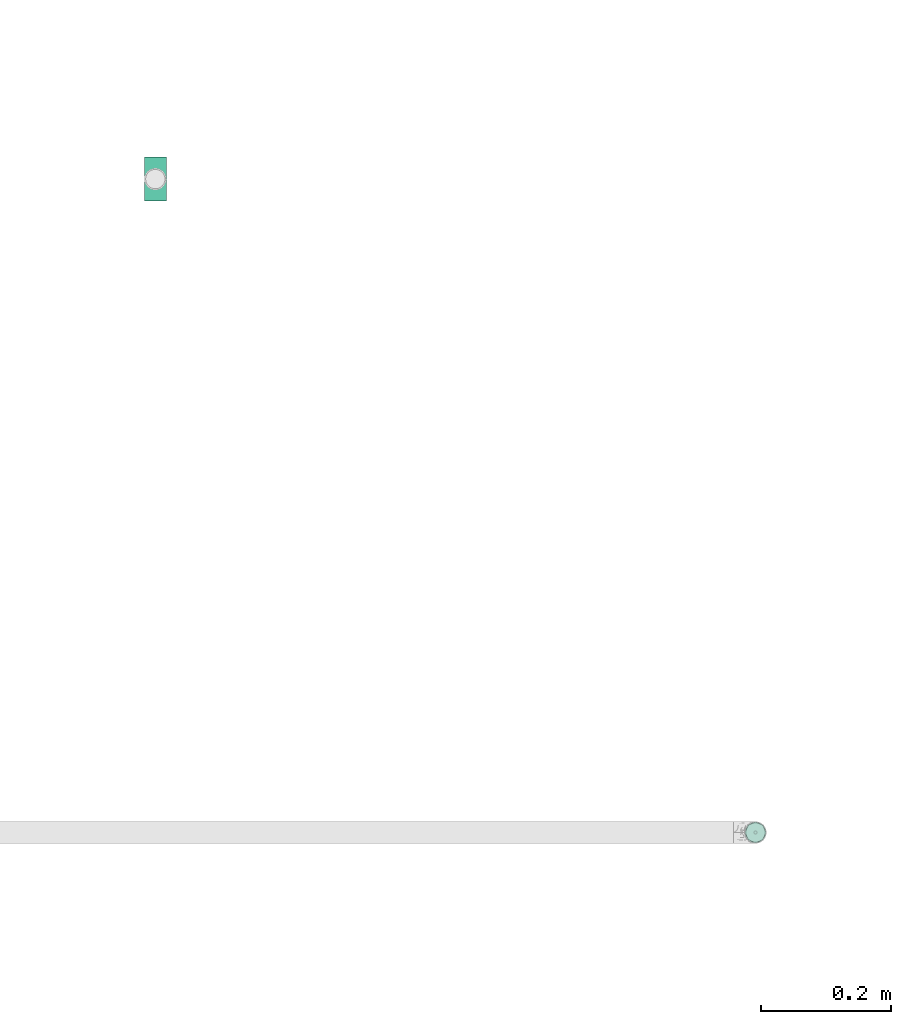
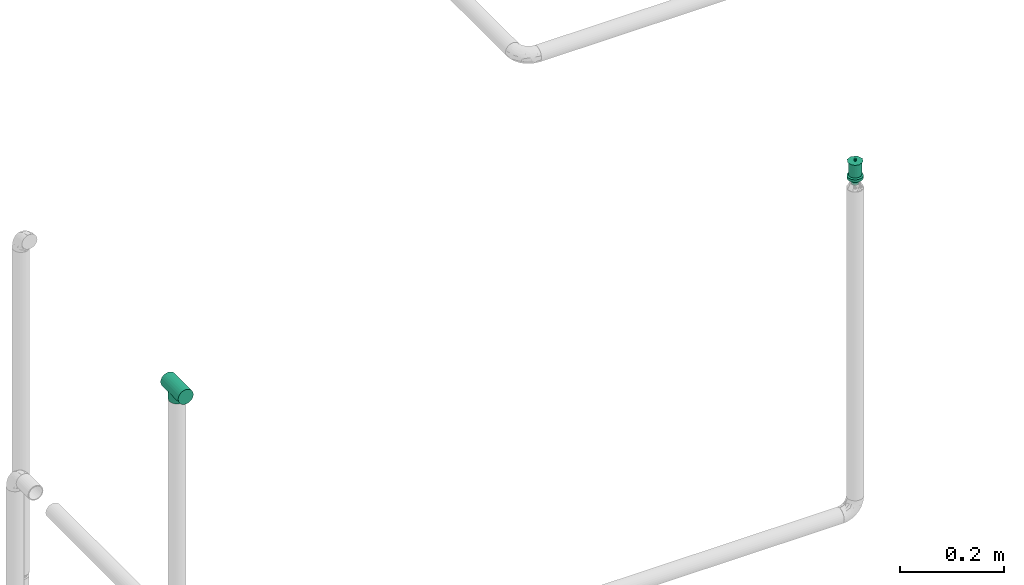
# One storey, part 53 of 94: 1 flow fitting, 1 flow terminal.
"""IFC2X3 building model written with IfcOpenShell, lengths in millimetres."""

from ifc_helpers import new_model, entity, si_unit, converted_unit, derived_unit, direction, frame, origin_with_axes, place, context, subcontext, project, spatial, open_shell, surface_model, source, transform, mapped, type_object, element, save


model = new_model("IFC2X3")

# Units and contexts
model_context = context("Model", 3, precision=0.01, world=frame((0.0, 4.29681676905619e-09, 0.0)), true_north=direction((4.01073788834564e-13, 1.0)))
plan_context = context("Plan", 3, precision=0.01, world=frame((0.0, 4.29681676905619e-09, 0.0)), true_north=direction((4.01073788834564e-13, 1.0)))
body_context = subcontext(model_context, "Body", "Model", "MODEL_VIEW")
ifc_project = project(units=[converted_unit("PLANEANGLEUNIT", "DEGREE", entity("IfcPositiveLengthMeasure", 0.0174532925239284), si_unit("PLANEANGLEUNIT", "RADIAN"), dimensions=[0, 0, 0, 0, 0, 0, 0]), si_unit("AREAUNIT", "SQUARE_METRE"), si_unit("LENGTHUNIT", "METRE", prefix="MILLI"), si_unit("MASSUNIT", "GRAM", prefix="KILO"), si_unit("POWERUNIT", "WATT"), si_unit("PRESSUREUNIT", "PASCAL", prefix="KILO"), si_unit("FORCEUNIT", "NEWTON", prefix="KILO"), si_unit("ELECTRICVOLTAGEUNIT", "VOLT"), si_unit("ELECTRICCURRENTUNIT", "AMPERE"), si_unit("THERMODYNAMICTEMPERATUREUNIT", "DEGREE_CELSIUS"), si_unit("TIMEUNIT", "SECOND"), si_unit("VOLUMEUNIT", "CUBIC_METRE"), derived_unit("LINEARVELOCITYUNIT", [(si_unit("LENGTHUNIT", "METRE"), 1), (si_unit("TIMEUNIT", "SECOND"), -1)]), derived_unit("VOLUMETRICFLOWRATEUNIT", [(si_unit("VOLUMEUNIT", "CUBIC_METRE"), 1), (si_unit("TIMEUNIT", "SECOND"), -1)]), derived_unit("THERMALTRANSMITTANCEUNIT", [(si_unit("POWERUNIT", "WATT"), 1), (si_unit("THERMODYNAMICTEMPERATUREUNIT", "KELVIN"), -1), (si_unit("AREAUNIT", "SQUARE_METRE"), -1)]), derived_unit("SOUNDPRESSUREUNIT", [(si_unit("PRESSUREUNIT", "PASCAL"), 1)])], contexts=[model_context, plan_context])

# Site, building, storey
site_placement = place(None, frame((0.0, -4.29681676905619e-09, 0.0), z_axis=(0.0, 0.0, 1.0), x_axis=(1.0, 0.0, 0.0)))
site = spatial("IfcSite", under=ifc_project, at=site_placement, CompositionType="ELEMENT")
building_placement = place(site_placement, frame((0.0, 4.29681676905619e-09, 0.0), z_axis=(0.0, 0.0, 1.0), x_axis=(1.0, 0.0, 0.0)))
building = spatial("IfcBuilding", under=site, at=building_placement, Name="mc-building", CompositionType="ELEMENT")
storey_placement = place(building_placement, frame((0.0, 0.0, 210900.0), z_axis=(0.0, 0.0, 1.0), x_axis=(1.0, 0.0, 0.0)))
storey = spatial("IfcBuildingStorey", under=building, at=storey_placement, Name="Nivå F", CompositionType="ELEMENT", Elevation=210900.0)

# Flow fitting
pipe_fitting_type = type_object("IfcPipeFittingType", Name="magi_pipe_fe_tee_centric_90_NOR", PredefinedType="JUNCTION")
shared_shape_1 = source(origin_with_axes(), body_context, "Body", "SurfaceModel", [
    surface_model("IfcShellBasedSurfaceModel", [(-33.8, 4.37404, -16.32415), (-33.8, 0.0, -16.9), (-33.8, 16.32415, -4.37404), (-33.8, 8.45, -14.63583), (-33.8, 11.9501, -11.9501), (-33.8, 14.63583, -8.45), (-33.8, -16.9, 0.0), (-33.8, -11.9501, -11.9501), (-33.8, -14.63583, -8.45), (-33.8, -8.45, -14.63583), (-33.8, -4.37404, -16.32415), (-33.8, -16.32415, -4.37404), (-33.8, 14.63583, 8.45), (-33.8, 16.32415, 4.37404), (-33.8, -8.45, 14.63583), (-33.8, 8.45, 14.63583), (-33.8, 11.9501, 11.9501), (-33.8, 4.37404, 16.32415), (-33.8, 0.0, 16.9), (-33.8, -11.9501, 11.9501), (-33.8, -14.63583, 8.45), (-33.8, -16.32415, 4.37404), (-33.8, -4.37404, 16.32415), (-33.8, 16.9, 0.0), (33.8, 4.37404, -16.32415), (33.8, -16.9, 0.0), (33.8, 0.0, -16.9), (33.8, 14.63583, -8.45), (33.8, 8.45, -14.63583), (33.8, 16.32415, -4.37404), (33.8, 11.9501, -11.9501), (33.8, -16.32415, 4.37404), (33.8, -8.45, -14.63583), (33.8, -4.37404, -16.32415), (33.8, -11.9501, -11.9501), (33.8, -14.63583, -8.45), (33.8, -16.32415, -4.37404), (33.8, 16.32415, 4.37404), (33.8, 8.45, 14.63583), (33.8, 14.63583, 8.45), (33.8, 11.9501, 11.9501), (33.8, -8.45, 14.63583), (33.8, 4.37404, 16.32415), (33.8, -14.63583, 8.45), (33.8, -11.9501, 11.9501), (33.8, 0.0, 16.9), (33.8, -4.37404, 16.32415), (33.8, 16.9, 0.0), (16.28698, -16.28698, 4.51047), (16.9, -16.9, 0.0), (14.62704, -14.62704, 8.4652), (9.47213, -9.47213, 13.99602), (12.26343, -12.26343, 11.62834), (-16.9, -16.9, 0.0), (-16.28698, -16.28698, 4.51047), (-14.62704, -14.62704, 8.4652), (-12.26343, -12.26343, 11.62834), (-9.47213, -9.47213, 13.99602), (-6.42894, -6.42894, 15.62942), (6.42894, -6.42894, 15.62942), (3.24522, -3.24522, 16.58549), (0.0, 0.0, 16.9), (-3.24522, -3.24522, 16.58549), (3.24522, -3.24522, -16.58549), (0.0, 0.0, -16.9), (-3.24522, -3.24522, -16.58549), (-6.42894, -6.42894, -15.62942), (6.42894, -6.42894, -15.62942), (9.47213, -9.47213, -13.99602), (12.26343, -12.26343, -11.62834), (14.62704, -14.62704, -8.4652), (16.28698, -16.28698, -4.51047), (-9.47213, -9.47213, -13.99602), (-12.26343, -12.26343, -11.62834), (-16.28698, -16.28698, -4.51047), (-14.62704, -14.62704, -8.4652), (4.37404, -25.35, -16.32415), (-16.9, -25.35, 0.0), (0.0, -25.35, -16.9), (14.63583, -25.35, -8.45), (8.45, -25.35, -14.63583), (16.32415, -25.35, -4.37404), (11.9501, -25.35, -11.9501), (-11.9501, -25.35, -11.9501), (-8.45, -25.35, -14.63583), (-4.37404, -25.35, -16.32415), (-14.63583, -25.35, -8.45), (-16.32415, -25.35, -4.37404), (16.9, -25.35, 0.0), (8.45, -25.35, 14.63583), (16.32415, -25.35, 4.37404), (14.63583, -25.35, 8.45), (-8.45, -25.35, 14.63583), (11.9501, -25.35, 11.9501), (4.37404, -25.35, 16.32415), (-16.32415, -25.35, 4.37404), (-11.9501, -25.35, 11.9501), (-14.63583, -25.35, 8.45), (0.0, -25.35, 16.9), (-4.37404, -25.35, 16.32415)], [open_shell([[[0, 1, 2]], [[3, 0, 4]], [[0, 2, 5]], [[4, 0, 5]], [[6, 2, 1]], [[7, 8, 9]], [[1, 10, 9]], [[11, 6, 8]], [[1, 9, 8]], [[1, 8, 6]], [[6, 12, 2]], [[12, 13, 2]], [[14, 12, 6]], [[12, 14, 15]], [[16, 12, 15]], [[17, 15, 18]], [[19, 14, 20]], [[21, 20, 14]], [[22, 18, 14]], [[14, 6, 21]], [[14, 18, 15]], [[23, 2, 13]], [[24, 25, 26]], [[27, 24, 28]], [[27, 29, 24]], [[27, 28, 30]], [[31, 25, 24]], [[26, 32, 33]], [[26, 34, 32]], [[35, 25, 36]], [[35, 34, 26]], [[25, 35, 26]], [[24, 29, 31]], [[29, 37, 38]], [[38, 37, 39]], [[38, 31, 29]], [[38, 39, 40]], [[41, 38, 42]], [[43, 41, 44]], [[41, 43, 31]], [[41, 45, 46]], [[41, 31, 38]], [[42, 45, 41]], [[29, 47, 37]], [[31, 43, 48]], [[25, 31, 49]], [[49, 31, 48]], [[43, 50, 48]], [[44, 41, 51]], [[50, 43, 52]], [[51, 52, 44]], [[52, 43, 44]], [[53, 54, 21]], [[53, 21, 6]], [[21, 54, 20]], [[54, 55, 20]], [[56, 57, 19]], [[19, 20, 56]], [[19, 57, 14]], [[56, 20, 55]], [[14, 57, 58]], [[51, 41, 59]], [[60, 45, 61]], [[59, 46, 60]], [[46, 59, 41]], [[60, 46, 45]], [[61, 45, 42]], [[39, 37, 13]], [[16, 38, 40]], [[12, 40, 39]], [[42, 38, 15]], [[23, 37, 47]], [[62, 61, 18]], [[62, 22, 58]], [[22, 62, 18]], [[58, 22, 14]], [[61, 17, 18]], [[42, 17, 61]], [[15, 17, 42]], [[15, 38, 16]], [[12, 16, 40]], [[13, 12, 39]], [[37, 23, 13]], [[5, 27, 30]], [[23, 47, 29]], [[30, 28, 3]], [[27, 2, 29]], [[26, 33, 63]], [[26, 64, 24]], [[64, 26, 63]], [[28, 24, 0]], [[64, 0, 24]], [[4, 30, 3]], [[2, 27, 5]], [[5, 30, 4]], [[2, 23, 29]], [[65, 66, 10]], [[1, 0, 64]], [[1, 65, 10]], [[66, 9, 10]], [[0, 3, 28]], [[1, 64, 65]], [[63, 33, 67]], [[32, 34, 68]], [[69, 68, 34]], [[35, 70, 69]], [[69, 34, 35]], [[32, 68, 67]], [[36, 25, 49]], [[36, 71, 35]], [[71, 36, 49]], [[35, 71, 70]], [[72, 9, 66]], [[72, 7, 9]], [[7, 72, 73]], [[7, 73, 8]], [[74, 53, 11]], [[75, 74, 8]], [[74, 11, 8]], [[11, 53, 6]], [[75, 8, 73]], [[32, 67, 33]], [[76, 77, 78]], [[79, 76, 80]], [[79, 81, 76]], [[79, 80, 82]], [[77, 76, 81]], [[78, 83, 84]], [[84, 85, 78]], [[86, 77, 87]], [[83, 78, 86]], [[77, 86, 78]], [[81, 88, 77]], [[89, 88, 90]], [[89, 90, 91]], [[92, 77, 89]], [[89, 91, 93]], [[92, 89, 94]], [[95, 96, 97]], [[96, 95, 92]], [[92, 98, 99]], [[95, 77, 92]], [[94, 98, 92]], [[89, 77, 88]], [[77, 95, 53]], [[54, 53, 95]], [[97, 96, 56]], [[96, 92, 57]], [[95, 97, 54]], [[58, 92, 99]], [[55, 54, 97]], [[56, 55, 97]], [[58, 57, 92]], [[98, 61, 62]], [[58, 99, 62]], [[56, 96, 57]], [[62, 99, 98]], [[94, 60, 98]], [[89, 59, 94]], [[91, 90, 48]], [[52, 93, 91]], [[93, 51, 89]], [[49, 90, 88]], [[59, 60, 94]], [[51, 59, 89]], [[49, 48, 90]], [[50, 52, 91]], [[48, 50, 91]], [[51, 93, 52]], [[98, 60, 61]], [[88, 81, 49]], [[71, 49, 81]], [[79, 82, 69]], [[82, 80, 68]], [[81, 79, 71]], [[67, 80, 76]], [[70, 71, 79]], [[69, 70, 79]], [[67, 68, 80]], [[78, 64, 63]], [[67, 76, 63]], [[69, 82, 68]], [[63, 76, 78]], [[85, 65, 78]], [[84, 66, 85]], [[86, 87, 74]], [[86, 73, 83]], [[72, 84, 83]], [[53, 87, 77]], [[66, 65, 85]], [[72, 66, 84]], [[53, 74, 87]], [[75, 73, 86]], [[74, 75, 86]], [[72, 83, 73]], [[78, 65, 64]]])]),
])
flow_fitting_placement = place(storey_placement, frame((725000.0, 436200.0, 3600.0), z_axis=(1.0, 0.0, 0.0), x_axis=(0.0, 1.0, 0.0)))
element("IfcFlowFitting", 1, at=flow_fitting_placement, inside=storey, type_object=pipe_fitting_type, Name="magi_pipe_fe_tee_centric_90_NOR", context=body_context, shape_type="MappedRepresentation", body=[
    mapped(shared_shape_1, transform((0.0, 0.0, 0.0), scale=1.0)),
])

# Flow terminal
fire_suppression_terminal_type = type_object("IfcFireSuppressionTerminalType", Name="68DGR-STD-STÅENDE", PredefinedType="NOTDEFINED")
shared_shape_2 = source(origin_with_axes(), body_context, "Body", "SurfaceModel", [
    surface_model("IfcShellBasedSurfaceModel", [(3.36465, -12.55704, 51.0), (6.5, -11.25833, 51.0), (9.19239, -9.19239, 51.0), (12.55704, -3.36465, 51.0), (-11.25833, -6.5, 51.0), (11.25833, -6.5, 51.0), (-13.0, 0.0, 51.0), (0.0, -13.0, 51.0), (-6.5, -11.25833, 51.0), (-3.36465, -12.55704, 51.0), (-9.19239, -9.19239, 51.0), (-12.55704, -3.36465, 51.0), (13.0, 0.0, 51.0), (12.55704, 3.36465, 51.0), (11.25833, 6.5, 51.0), (9.19239, 9.19239, 51.0), (6.5, 11.25833, 51.0), (3.36465, 12.55704, 51.0), (0.0, 13.0, 51.0), (-3.36465, 12.55704, 51.0), (-12.55704, 3.36465, 51.0), (-9.19239, 9.19239, 51.0), (-11.25833, 6.5, 51.0), (-6.5, 11.25833, 51.0), (0.0, 13.0, 21.14766), (3.36465, 12.55704, 21.14766), (6.5, 11.25833, 21.14766), (-3.36465, 12.55704, 21.14766), (9.19239, 9.19239, 21.14766), (11.25833, 6.5, 21.14766), (12.55704, 3.36465, 21.14766), (-12.55704, 3.36465, 21.14766), (-11.25833, -6.5, 21.14766), (-9.19239, 9.19239, 21.14766), (-6.5, 11.25833, 21.14766), (-11.25833, 6.5, 21.14766), (-13.0, 0.0, 21.14766), (12.55704, -3.36465, 21.14766), (9.19239, -9.19239, 21.14766), (11.25833, -6.5, 21.14766), (6.5, -11.25833, 21.14766), (3.36465, -12.55704, 21.14766), (-6.5, -11.25833, 21.14766), (-9.19239, -9.19239, 21.14766), (-12.55704, -3.36465, 21.14766), (0.0, -13.0, 21.14766), (-3.36465, -12.55704, 21.14766), (13.0, 0.0, 21.14766), (7.24444, -1.94114, 0.1), (1.94114, -7.24444, 0.1), (3.75, -6.49519, 0.1), (5.3033, -5.3033, 0.1), (-5.3033, -5.3033, 0.1), (6.49519, -3.75, 0.1), (5.3033, 5.3033, 0.1), (0.0, -7.5, 0.1), (-3.75, -6.49519, 0.1), (-1.94114, -7.24444, 0.1), (-7.24444, -1.94114, 0.1), (-6.49519, -3.75, 0.1), (-7.24444, 1.94114, 0.1), (7.5, 0.0, 0.1), (6.49519, 3.75, 0.1), (-6.49519, 3.75, 0.1), (1.94114, 7.24444, 0.1), (0.0, 7.5, 0.1), (3.75, 6.49519, 0.1), (-7.5, 0.0, 0.1), (-5.3033, 5.3033, 0.1), (-1.94114, 7.24444, 0.1), (-3.75, 6.49519, 0.1), (7.24444, 1.94114, 0.1), (1.94114, 7.24444, -0.1), (-6.49519, 3.75, -0.1), (0.0, 7.5, -0.1), (5.3033, 5.3033, -0.1), (3.75, 6.49519, -0.1), (6.49519, 3.75, -0.1), (7.24444, 1.94114, -0.1), (-1.94114, 7.24444, -0.1), (-5.3033, 5.3033, -0.1), (-3.75, 6.49519, -0.1), (-7.24444, 1.94114, -0.1), (-7.24444, -1.94114, -0.1), (-7.5, 0.0, -0.1), (7.5, 0.0, -0.1), (7.24444, -1.94114, -0.1), (-5.3033, -5.3033, -0.1), (1.94114, -7.24444, -0.1), (6.49519, -3.75, -0.1), (5.3033, -5.3033, -0.1), (3.75, -6.49519, -0.1), (-6.49519, -3.75, -0.1), (-3.75, -6.49519, -0.1), (0.0, -7.5, -0.1), (-1.94114, -7.24444, -0.1), (0.0, -2.5, 51.0), (-2.5, 0.0, 51.0), (0.0, 2.5, 51.0), (2.5, 0.0, 51.0), (0.0, -16.0, 53.0), (11.31371, -11.31371, 53.0), (-11.31371, -11.31371, 53.0), (-16.0, 0.0, 53.0), (16.0, 0.0, 53.0), (11.31371, 11.31371, 53.0), (0.0, 16.0, 53.0), (-11.31371, 11.31371, 53.0), (1.25, -2.16506, 57.0), (0.0, -2.5, 57.0), (0.64705, -2.41481, 57.0), (2.41481, -0.64705, 57.0), (1.76777, -1.76777, 57.0), (-2.41481, -0.64705, 57.0), (-2.5, 0.0, 57.0), (2.16506, -1.25, 57.0), (-1.25, -2.16506, 57.0), (-0.64705, -2.41481, 57.0), (-1.76777, -1.76777, 57.0), (-2.16506, -1.25, 57.0), (2.5, 0.0, 57.0), (2.41481, 0.64705, 57.0), (2.16506, 1.25, 57.0), (1.76777, 1.76777, 57.0), (0.64705, 2.41481, 57.0), (1.25, 2.16506, 57.0), (-1.76777, 1.76777, 57.0), (0.0, 2.5, 57.0), (-2.16506, 1.25, 57.0), (-2.41481, 0.64705, 57.0), (-0.64705, 2.41481, 57.0), (-1.25, 2.16506, 57.0), (1.25, 2.16506, 51.0), (1.76777, 1.76777, 51.0), (1.15, 1.99186, 51.0), (0.59528, 2.22163, 51.0), (0.64705, 2.41481, 51.0), (0.0, 2.3, 51.0), (1.62635, 1.62635, 51.0), (2.41481, 0.64705, 51.0), (2.3, 0.0, 51.0), (2.22163, 0.59528, 51.0), (2.16506, 1.25, 51.0), (1.99186, 1.15, 51.0), (-0.59528, 2.22163, 51.0), (-0.64705, 2.41481, 51.0), (-1.15, 1.99186, 51.0), (-1.76777, 1.76777, 51.0), (-1.25, 2.16506, 51.0), (-1.62635, 1.62635, 51.0), (-1.99186, 1.15, 51.0), (-2.16506, 1.25, 51.0), (-2.22163, 0.59528, 51.0), (-2.41481, 0.64705, 51.0), (-2.3, 0.0, 51.0), (2.41481, -0.64705, 51.0), (2.22163, -0.59528, 51.0), (1.99186, -1.15, 51.0), (2.16506, -1.25, 51.0), (1.62635, -1.62635, 51.0), (1.76777, -1.76777, 51.0), (1.25, -2.16506, 51.0), (1.15, -1.99186, 51.0), (0.59528, -2.22163, 51.0), (0.64705, -2.41481, 51.0), (0.0, -2.3, 51.0), (-2.16506, -1.25, 51.0), (-1.99186, -1.15, 51.0), (-1.76777, -1.76777, 51.0), (-1.62635, -1.62635, 51.0), (-2.41481, -0.64705, 51.0), (-2.22163, -0.59528, 51.0), (-0.59528, -2.22163, 51.0), (-0.64705, -2.41481, 51.0), (-1.15, -1.99186, 51.0), (-1.25, -2.16506, 51.0), (1.62635, -1.62635, 56.8), (1.15, -1.99186, 56.8), (0.59528, -2.22163, 56.8), (0.0, -2.3, 56.8), (2.22163, 0.59528, 56.8), (1.99186, -1.15, 56.8), (2.22163, -0.59528, 56.8), (-0.59528, -2.22163, 56.8), (-1.15, -1.99186, 56.8), (-1.62635, -1.62635, 56.8), (-1.99186, -1.15, 56.8), (-2.22163, -0.59528, 56.8), (-1.99186, 1.15, 56.8), (2.3, 0.0, 56.8), (1.62635, 1.62635, 56.8), (1.99186, 1.15, 56.8), (1.15, 1.99186, 56.8), (0.0, 2.3, 56.8), (0.59528, 2.22163, 56.8), (-2.22163, 0.59528, 56.8), (-2.3, 0.0, 56.8), (-1.15, 1.99186, 56.8), (-0.59528, 2.22163, 56.8), (-1.62635, 1.62635, 56.8), (4.1411, -15.45481, 19.0), (8.0, -13.85641, 19.0), (11.31371, -11.31371, 19.0), (-8.0, -13.85641, 19.0), (15.45481, -4.1411, 19.0), (16.0, 0.0, 19.0), (13.85641, -8.0, 19.0), (0.0, -16.0, 19.0), (-4.1411, -15.45481, 19.0), (-13.85641, -8.0, 19.0), (-11.31371, -11.31371, 19.0), (-15.45481, -4.1411, 19.0), (15.45481, 4.1411, 19.0), (13.85641, 8.0, 19.0), (11.31371, 11.31371, 19.0), (-4.1411, 15.45481, 19.0), (8.0, 13.85641, 19.0), (4.1411, 15.45481, 19.0), (0.0, 16.0, 19.0), (-13.85641, 8.0, 19.0), (-15.45481, 4.1411, 19.0), (-16.0, 0.0, 19.0), (-11.31371, 11.31371, 19.0), (-8.0, 13.85641, 19.0), (0.0, 16.0, 13.0), (4.1411, 15.45481, 13.0), (8.0, 13.85641, 13.0), (-4.1411, 15.45481, 13.0), (11.31371, 11.31371, 13.0), (13.85641, 8.0, 13.0), (15.45481, 4.1411, 13.0), (-15.45481, -4.1411, 13.0), (-11.31371, 11.31371, 13.0), (-8.0, 13.85641, 13.0), (-13.85641, 8.0, 13.0), (-15.45481, 4.1411, 13.0), (-16.0, 0.0, 13.0), (4.1411, -15.45481, 13.0), (16.0, 0.0, 13.0), (15.45481, -4.1411, 13.0), (13.85641, -8.0, 13.0), (11.31371, -11.31371, 13.0), (8.0, -13.85641, 13.0), (-8.0, -13.85641, 13.0), (-13.85641, -8.0, 13.0), (-11.31371, -11.31371, 13.0), (0.0, -16.0, 13.0), (-4.1411, -15.45481, 13.0), (7.24444, -1.94114, 13.0), (1.94114, -7.24444, 13.0), (3.75, -6.49519, 13.0), (5.3033, -5.3033, 13.0), (-5.3033, -5.3033, 13.0), (6.49519, -3.75, 13.0), (5.3033, 5.3033, 13.0), (0.0, -7.5, 13.0), (-3.75, -6.49519, 13.0), (-1.94114, -7.24444, 13.0), (-7.24444, -1.94114, 13.0), (-6.49519, -3.75, 13.0), (-7.24444, 1.94114, 13.0), (7.5, 0.0, 13.0), (6.49519, 3.75, 13.0), (-6.49519, 3.75, 13.0), (1.94114, 7.24444, 13.0), (0.0, 7.5, 13.0), (3.75, 6.49519, 13.0), (-7.5, 0.0, 13.0), (-5.3033, 5.3033, 13.0), (-1.94114, 7.24444, 13.0), (-3.75, 6.49519, 13.0), (7.24444, 1.94114, 13.0), (3.75, 6.49519, 0.0), (5.3033, 5.3033, 0.0), (3.65, 6.32199, 0.0), (1.88938, 7.05126, 0.0), (0.0, 7.3, 0.0), (1.94114, 7.24444, 0.0), (0.0, 7.5, 0.0), (5.16188, 5.16188, 0.0), (7.24444, 1.94114, 0.0), (7.3, 0.0, 0.0), (7.05126, 1.88938, 0.0), (7.5, 0.0, 0.0), (6.49519, 3.75, 0.0), (6.32199, 3.65, 0.0), (-1.88938, 7.05126, 0.0), (-1.94114, 7.24444, 0.0), (-3.65, 6.32199, 0.0), (-5.3033, 5.3033, 0.0), (-3.75, 6.49519, 0.0), (-5.16188, 5.16188, 0.0), (-6.32199, 3.65, 0.0), (-6.49519, 3.75, 0.0), (-7.05126, 1.88938, 0.0), (-7.24444, 1.94114, 0.0), (-7.3, 0.0, 0.0), (-7.5, 0.0, 0.0), (7.24444, -1.94114, 0.0), (7.05126, -1.88938, 0.0), (6.32199, -3.65, 0.0), (6.49519, -3.75, 0.0), (5.16188, -5.16188, 0.0), (5.3033, -5.3033, 0.0), (3.75, -6.49519, 0.0), (3.65, -6.32199, 0.0), (1.88938, -7.05126, 0.0), (1.94114, -7.24444, 0.0), (0.0, -7.3, 0.0), (0.0, -7.5, 0.0), (-6.49519, -3.75, 0.0), (-6.32199, -3.65, 0.0), (-5.3033, -5.3033, 0.0), (-5.16188, -5.16188, 0.0), (-7.24444, -1.94114, 0.0), (-7.05126, -1.88938, 0.0), (-1.88938, -7.05126, 0.0), (-1.94114, -7.24444, 0.0), (-3.65, -6.32199, 0.0), (-3.75, -6.49519, 0.0), (1.88938, -7.05126, 12.8), (0.0, -7.3, 12.8), (3.65, -6.32199, 12.8), (5.16188, -5.16188, 12.8), (6.32199, -3.65, 12.8), (7.05126, 1.88938, 12.8), (7.05126, -1.88938, 12.8), (-5.16188, -5.16188, 12.8), (-1.88938, -7.05126, 12.8), (-3.65, -6.32199, 12.8), (-6.32199, -3.65, 12.8), (-7.05126, -1.88938, 12.8), (0.0, 7.3, 12.8), (7.3, 0.0, 12.8), (6.32199, 3.65, 12.8), (5.16188, 5.16188, 12.8), (3.65, 6.32199, 12.8), (1.88938, 7.05126, 12.8), (-6.32199, 3.65, 12.8), (-7.05126, 1.88938, 12.8), (-7.3, 0.0, 12.8), (-3.65, 6.32199, 12.8), (-1.88938, 7.05126, 12.8), (-5.16188, 5.16188, 12.8)], [open_shell([[[0, 1, 2]], [[0, 2, 3]], [[0, 3, 4]], [[3, 2, 5]], [[6, 4, 3]], [[7, 8, 9]], [[7, 0, 8]], [[8, 4, 10]], [[0, 4, 8]], [[4, 6, 11]], [[6, 3, 12]], [[13, 14, 15]], [[6, 13, 15]], [[16, 17, 18]], [[15, 16, 19]], [[18, 19, 16]], [[20, 21, 22]], [[20, 6, 15]], [[21, 19, 23]], [[19, 21, 20]], [[15, 19, 20]], [[13, 6, 12]], [[24, 25, 26]], [[27, 24, 26]], [[28, 29, 30]], [[26, 28, 31]], [[28, 32, 31]], [[27, 33, 34]], [[33, 27, 31]], [[33, 31, 35]], [[27, 26, 31]], [[31, 32, 36]], [[32, 28, 30]], [[32, 30, 37]], [[38, 37, 39]], [[38, 40, 41]], [[38, 41, 37]], [[32, 37, 41]], [[32, 42, 43]], [[44, 36, 32]], [[42, 45, 46]], [[42, 32, 41]], [[45, 42, 41]], [[30, 47, 37]], [[4, 32, 43]], [[8, 42, 46]], [[43, 42, 10]], [[9, 46, 45]], [[36, 11, 6]], [[11, 36, 44]], [[11, 44, 4]], [[44, 32, 4]], [[43, 10, 4]], [[8, 10, 42]], [[46, 9, 8]], [[45, 7, 9]], [[0, 41, 40]], [[38, 1, 40]], [[5, 39, 37]], [[38, 39, 2]], [[3, 37, 47]], [[41, 0, 7]], [[40, 1, 0]], [[38, 2, 1]], [[39, 5, 2]], [[3, 5, 37]], [[47, 12, 3]], [[41, 7, 45]], [[30, 13, 47]], [[29, 14, 30]], [[25, 24, 17]], [[15, 29, 28]], [[30, 14, 13]], [[13, 12, 47]], [[16, 26, 17]], [[16, 15, 28]], [[26, 25, 17]], [[15, 14, 29]], [[28, 26, 16]], [[24, 18, 17]], [[19, 27, 34]], [[33, 23, 34]], [[22, 35, 31]], [[33, 35, 21]], [[20, 31, 36]], [[27, 19, 18]], [[34, 23, 19]], [[33, 21, 23]], [[35, 22, 21]], [[20, 22, 31]], [[36, 6, 20]], [[27, 18, 24]], [[48, 49, 50]], [[48, 50, 51]], [[49, 48, 52]], [[48, 51, 53]], [[54, 52, 48]], [[55, 56, 57]], [[56, 55, 52]], [[52, 58, 59]], [[52, 55, 49]], [[52, 60, 58]], [[54, 48, 61]], [[62, 54, 61]], [[54, 63, 52]], [[64, 65, 54]], [[64, 54, 66]], [[63, 54, 65]], [[63, 60, 52]], [[67, 58, 60]], [[68, 69, 70]], [[69, 68, 63]], [[69, 63, 65]], [[71, 62, 61]], [[72, 73, 74]], [[75, 72, 76]], [[75, 77, 78]], [[72, 75, 73]], [[78, 73, 75]], [[79, 80, 81]], [[80, 79, 73]], [[74, 73, 79]], [[78, 82, 73]], [[82, 83, 84]], [[82, 78, 85]], [[86, 87, 85]], [[88, 86, 89]], [[90, 91, 88]], [[90, 88, 89]], [[87, 86, 88]], [[83, 87, 92]], [[83, 85, 87]], [[93, 94, 95]], [[94, 93, 87]], [[88, 94, 87]], [[85, 83, 82]], [[83, 58, 84]], [[92, 59, 83]], [[56, 87, 93]], [[92, 87, 52]], [[57, 93, 95]], [[83, 59, 58]], [[58, 67, 84]], [[57, 56, 93]], [[52, 87, 56]], [[52, 59, 92]], [[55, 57, 95]], [[95, 94, 55]], [[88, 49, 94]], [[91, 50, 88]], [[53, 90, 89]], [[91, 90, 51]], [[48, 89, 86]], [[91, 51, 50]], [[50, 49, 88]], [[61, 48, 86]], [[53, 89, 48]], [[53, 51, 90]], [[85, 61, 86]], [[94, 49, 55]], [[78, 71, 85]], [[77, 62, 78]], [[66, 75, 76]], [[77, 75, 54]], [[64, 76, 72]], [[78, 62, 71]], [[71, 61, 85]], [[64, 66, 76]], [[54, 75, 66]], [[54, 62, 77]], [[65, 64, 72]], [[72, 74, 65]], [[79, 69, 74]], [[81, 70, 79]], [[63, 80, 73]], [[81, 80, 68]], [[60, 73, 82]], [[81, 68, 70]], [[70, 69, 79]], [[67, 60, 82]], [[63, 73, 60]], [[63, 68, 80]], [[84, 67, 82]], [[74, 69, 65]], [[96, 97, 98]], [[98, 99, 96]], [[100, 101, 102]], [[103, 102, 101]], [[101, 104, 103]], [[104, 105, 106]], [[107, 103, 106]], [[106, 103, 104]], [[99, 98, 105]], [[105, 104, 99]], [[98, 106, 105]], [[98, 107, 106]], [[107, 98, 97]], [[103, 107, 97]], [[97, 96, 102]], [[102, 103, 97]], [[96, 100, 102]], [[96, 101, 100]], [[101, 96, 99]], [[104, 101, 99]], [[108, 109, 110]], [[111, 108, 112]], [[113, 108, 114]], [[111, 112, 115]], [[108, 111, 114]], [[109, 116, 117]], [[116, 109, 118]], [[118, 113, 119]], [[118, 109, 108]], [[108, 113, 118]], [[111, 120, 114]], [[121, 122, 123]], [[114, 121, 123]], [[114, 123, 124]], [[124, 123, 125]], [[126, 124, 127]], [[124, 128, 129]], [[129, 114, 124]], [[126, 130, 131]], [[128, 124, 126]], [[130, 126, 127]], [[121, 114, 120]], [[132, 133, 134]], [[132, 134, 135]], [[136, 135, 137]], [[135, 136, 132]], [[136, 137, 98]], [[134, 133, 138]], [[139, 140, 141]], [[140, 139, 99]], [[139, 141, 142]], [[138, 142, 143]], [[142, 138, 133]], [[143, 142, 141]], [[98, 144, 145]], [[98, 137, 144]], [[145, 144, 146]], [[147, 148, 149]], [[146, 148, 145]], [[149, 148, 146]], [[150, 151, 147]], [[151, 150, 152]], [[150, 147, 149]], [[153, 152, 154]], [[152, 153, 151]], [[153, 154, 97]], [[99, 155, 156]], [[156, 155, 157]], [[157, 158, 159]], [[158, 157, 155]], [[159, 158, 160]], [[160, 161, 162]], [[162, 161, 163]], [[163, 164, 165]], [[164, 163, 161]], [[165, 164, 96]], [[162, 159, 160]], [[166, 167, 168]], [[168, 167, 169]], [[167, 166, 170]], [[97, 171, 170]], [[170, 171, 167]], [[97, 154, 171]], [[172, 96, 173]], [[172, 173, 174]], [[169, 175, 168]], [[175, 169, 174]], [[175, 174, 173]], [[165, 96, 172]], [[156, 140, 99]], [[170, 113, 97]], [[166, 119, 170]], [[116, 168, 175]], [[166, 168, 118]], [[117, 175, 173]], [[170, 119, 113]], [[113, 114, 97]], [[117, 116, 175]], [[118, 168, 116]], [[118, 119, 166]], [[109, 117, 173]], [[173, 96, 109]], [[164, 110, 96]], [[161, 108, 164]], [[115, 160, 158]], [[161, 160, 112]], [[111, 158, 155]], [[161, 112, 108]], [[108, 110, 164]], [[120, 111, 155]], [[115, 158, 111]], [[115, 112, 160]], [[99, 120, 155]], [[96, 110, 109]], [[139, 121, 99]], [[142, 122, 139]], [[125, 133, 132]], [[142, 133, 123]], [[124, 132, 136]], [[139, 122, 121]], [[121, 120, 99]], [[124, 125, 132]], [[123, 133, 125]], [[123, 122, 142]], [[127, 124, 136]], [[136, 98, 127]], [[145, 130, 98]], [[148, 131, 145]], [[128, 147, 151]], [[148, 147, 126]], [[129, 151, 153]], [[148, 126, 131]], [[131, 130, 145]], [[114, 129, 153]], [[128, 151, 129]], [[128, 126, 147]], [[97, 114, 153]], [[98, 130, 127]], [[176, 177, 178]], [[176, 178, 179]], [[180, 176, 179]], [[181, 176, 182]], [[180, 182, 176]], [[183, 184, 179]], [[185, 179, 184]], [[186, 187, 185]], [[185, 187, 188]], [[179, 185, 188]], [[189, 182, 180]], [[190, 191, 180]], [[192, 190, 180]], [[193, 194, 192]], [[180, 193, 192]], [[188, 193, 180]], [[195, 188, 196]], [[196, 188, 187]], [[197, 198, 199]], [[188, 199, 198]], [[188, 198, 193]], [[180, 179, 188]], [[154, 187, 171]], [[171, 186, 167]], [[174, 169, 184]], [[185, 169, 167]], [[172, 174, 183]], [[187, 186, 171]], [[154, 196, 187]], [[174, 184, 183]], [[184, 169, 185]], [[167, 186, 185]], [[172, 183, 179]], [[179, 165, 172]], [[165, 178, 163]], [[163, 177, 162]], [[157, 159, 181]], [[176, 159, 162]], [[156, 157, 182]], [[177, 176, 162]], [[163, 178, 177]], [[156, 182, 189]], [[182, 157, 181]], [[159, 176, 181]], [[156, 189, 140]], [[179, 178, 165]], [[140, 180, 141]], [[141, 191, 143]], [[134, 138, 192]], [[190, 138, 143]], [[135, 134, 194]], [[180, 191, 141]], [[140, 189, 180]], [[134, 192, 194]], [[192, 138, 190]], [[143, 191, 190]], [[135, 194, 193]], [[193, 137, 135]], [[137, 198, 144]], [[144, 197, 146]], [[150, 149, 188]], [[199, 149, 146]], [[152, 150, 195]], [[197, 199, 146]], [[144, 198, 197]], [[152, 195, 196]], [[195, 150, 188]], [[149, 199, 188]], [[152, 196, 154]], [[193, 198, 137]], [[200, 201, 202]], [[203, 200, 202]], [[204, 205, 202]], [[204, 202, 206]], [[203, 202, 205]], [[207, 203, 208]], [[207, 200, 203]], [[203, 209, 210]], [[209, 203, 211]], [[205, 211, 203]], [[205, 212, 211]], [[212, 213, 214]], [[215, 212, 214]], [[216, 217, 218]], [[214, 216, 215]], [[218, 215, 216]], [[211, 219, 220]], [[221, 211, 220]], [[222, 215, 223]], [[215, 222, 219]], [[219, 211, 215]], [[211, 212, 215]], [[224, 225, 226]], [[227, 224, 226]], [[228, 229, 230]], [[227, 226, 228]], [[227, 228, 231]], [[227, 232, 233]], [[232, 227, 234]], [[234, 231, 235]], [[231, 234, 227]], [[235, 231, 236]], [[228, 230, 231]], [[237, 238, 239]], [[237, 239, 240]], [[241, 242, 237]], [[241, 237, 240]], [[238, 237, 243]], [[244, 243, 245]], [[243, 244, 231]], [[243, 246, 247]], [[243, 231, 238]], [[237, 246, 243]], [[238, 231, 230]], [[231, 211, 236]], [[244, 209, 231]], [[203, 245, 243]], [[244, 245, 210]], [[208, 243, 247]], [[231, 209, 211]], [[211, 221, 236]], [[208, 203, 243]], [[210, 245, 203]], [[210, 209, 244]], [[207, 208, 247]], [[247, 246, 207]], [[237, 200, 246]], [[242, 201, 237]], [[206, 241, 240]], [[242, 241, 202]], [[204, 240, 239]], [[242, 202, 201]], [[201, 200, 237]], [[205, 204, 239]], [[206, 240, 204]], [[206, 202, 241]], [[238, 205, 239]], [[246, 200, 207]], [[230, 212, 238]], [[229, 213, 230]], [[216, 228, 226]], [[229, 228, 214]], [[217, 226, 225]], [[230, 213, 212]], [[212, 205, 238]], [[217, 216, 226]], [[214, 228, 216]], [[214, 213, 229]], [[218, 217, 225]], [[225, 224, 218]], [[227, 215, 224]], [[233, 223, 227]], [[219, 232, 234]], [[233, 232, 222]], [[220, 234, 235]], [[233, 222, 223]], [[223, 215, 227]], [[221, 220, 235]], [[219, 234, 220]], [[219, 222, 232]], [[236, 221, 235]], [[224, 215, 218]], [[248, 249, 250]], [[248, 250, 251]], [[249, 248, 252]], [[248, 251, 253]], [[254, 252, 248]], [[255, 256, 257]], [[256, 255, 252]], [[252, 258, 259]], [[252, 255, 249]], [[252, 260, 258]], [[254, 248, 261]], [[262, 254, 261]], [[254, 263, 252]], [[264, 265, 254]], [[264, 254, 266]], [[263, 254, 265]], [[263, 260, 252]], [[267, 258, 260]], [[268, 269, 270]], [[269, 268, 263]], [[269, 263, 265]], [[271, 262, 261]], [[272, 273, 274]], [[272, 274, 275]], [[276, 277, 275]], [[277, 276, 278]], [[275, 277, 272]], [[274, 273, 279]], [[280, 281, 282]], [[281, 280, 283]], [[280, 282, 284]], [[279, 284, 285]], [[284, 279, 273]], [[285, 284, 282]], [[278, 286, 287]], [[287, 286, 288]], [[289, 290, 291]], [[288, 290, 287]], [[288, 291, 290]], [[278, 276, 286]], [[292, 293, 289]], [[293, 292, 294]], [[292, 289, 291]], [[295, 294, 296]], [[294, 295, 293]], [[295, 296, 297]], [[283, 298, 299]], [[299, 298, 300]], [[300, 301, 302]], [[301, 300, 298]], [[302, 301, 303]], [[303, 304, 305]], [[305, 304, 306]], [[306, 307, 308]], [[307, 306, 304]], [[308, 307, 309]], [[305, 302, 303]], [[310, 311, 312]], [[312, 311, 313]], [[311, 310, 314]], [[297, 315, 314]], [[314, 315, 311]], [[297, 296, 315]], [[316, 309, 317]], [[316, 317, 318]], [[313, 319, 312]], [[313, 318, 319]], [[319, 318, 317]], [[308, 309, 316]], [[299, 281, 283]], [[314, 258, 297]], [[310, 259, 314]], [[256, 312, 319]], [[310, 312, 252]], [[257, 319, 317]], [[314, 259, 258]], [[258, 267, 297]], [[257, 256, 319]], [[252, 312, 256]], [[252, 259, 310]], [[255, 257, 317]], [[317, 309, 255]], [[307, 249, 309]], [[304, 250, 307]], [[253, 303, 301]], [[304, 303, 251]], [[248, 301, 298]], [[304, 251, 250]], [[250, 249, 307]], [[261, 248, 298]], [[253, 301, 248]], [[253, 251, 303]], [[283, 261, 298]], [[309, 249, 255]], [[280, 271, 283]], [[284, 262, 280]], [[266, 273, 272]], [[284, 273, 254]], [[264, 272, 277]], [[280, 262, 271]], [[271, 261, 283]], [[264, 266, 272]], [[254, 273, 266]], [[254, 262, 284]], [[265, 264, 277]], [[277, 278, 265]], [[287, 269, 278]], [[290, 270, 287]], [[263, 289, 293]], [[290, 289, 268]], [[260, 293, 295]], [[290, 268, 270]], [[270, 269, 287]], [[267, 260, 295]], [[263, 293, 260]], [[263, 268, 289]], [[297, 267, 295]], [[278, 269, 265]], [[320, 321, 322]], [[323, 322, 324]], [[325, 326, 322]], [[324, 322, 326]], [[322, 327, 325]], [[328, 329, 321]], [[327, 321, 329]], [[330, 331, 327]], [[322, 321, 327]], [[331, 332, 327]], [[326, 325, 333]], [[334, 325, 332]], [[335, 334, 336]], [[332, 337, 336]], [[334, 332, 336]], [[331, 338, 332]], [[339, 338, 340]], [[340, 338, 331]], [[341, 342, 343]], [[332, 338, 343]], [[332, 343, 342]], [[332, 325, 327]], [[296, 331, 315]], [[315, 330, 311]], [[318, 313, 329]], [[327, 313, 311]], [[316, 318, 328]], [[331, 330, 315]], [[296, 340, 331]], [[318, 329, 328]], [[329, 313, 327]], [[311, 330, 327]], [[316, 328, 321]], [[321, 308, 316]], [[308, 320, 306]], [[306, 322, 305]], [[300, 302, 324]], [[323, 302, 305]], [[299, 300, 326]], [[322, 323, 305]], [[306, 320, 322]], [[299, 326, 333]], [[326, 300, 324]], [[302, 323, 324]], [[299, 333, 281]], [[321, 320, 308]], [[281, 325, 282]], [[282, 334, 285]], [[274, 279, 336]], [[335, 279, 285]], [[275, 274, 337]], [[325, 334, 282]], [[281, 333, 325]], [[274, 336, 337]], [[336, 279, 335]], [[285, 334, 335]], [[275, 337, 332]], [[332, 276, 275]], [[276, 342, 286]], [[286, 341, 288]], [[292, 291, 338]], [[343, 291, 288]], [[294, 292, 339]], [[341, 343, 288]], [[286, 342, 341]], [[294, 339, 340]], [[339, 292, 338]], [[291, 343, 338]], [[294, 340, 296]], [[332, 342, 276]]])]),
])
flow_terminal_placement = place(storey_placement, frame((725923.83068, 435194.37907, 4367.0), z_axis=(0.0, 0.0, 1.0), x_axis=(1.0, 0.0, 0.0)))
element("IfcFlowTerminal", 2, at=flow_terminal_placement, inside=storey, type_object=fire_suppression_terminal_type, Name="68DGR-STD-STÅENDE", context=body_context, shape_type="MappedRepresentation", body=[
    mapped(shared_shape_2, transform((0.0, 0.0, 0.0), scale=1.0)),
])

save(model, "model.ifc")
